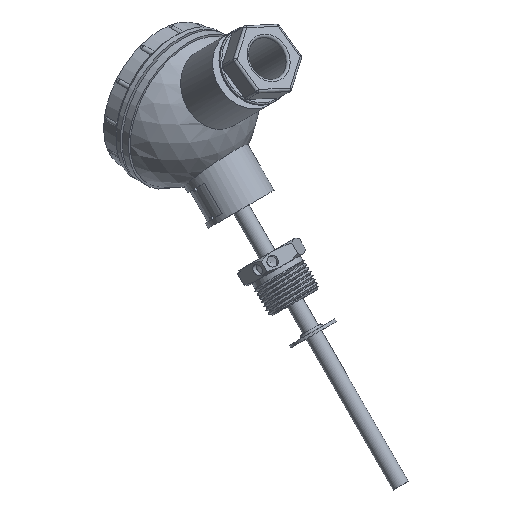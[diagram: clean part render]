
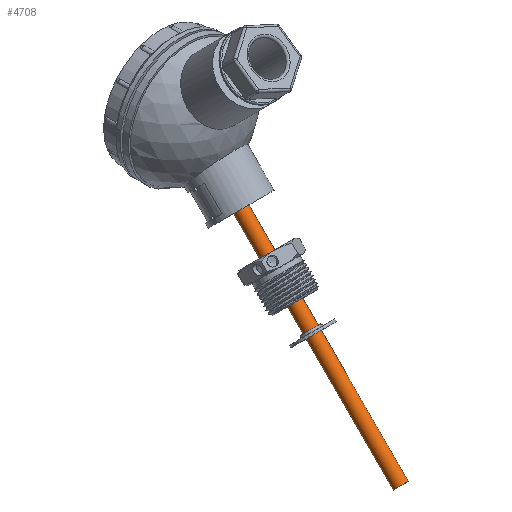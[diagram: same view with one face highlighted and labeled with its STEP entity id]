
A CAD part, isometric view. The second image highlights one B-rep face of the part: STEP entity #4708.
In plain terms, the highlighted cylindrical face has radius 3 mm (diameter 6 mm), a full revolution.
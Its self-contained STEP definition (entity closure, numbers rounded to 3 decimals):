
#4708=ADVANCED_FACE('',(#17986,#17988),#17990,.T.);
#17986=FACE_OUTER_BOUND('',#17987,.T.);
#17987=EDGE_LOOP('',(#20821));
#17988=FACE_OUTER_BOUND('',#17989,.T.);
#17989=EDGE_LOOP('',(#20822));
#17990=CYLINDRICAL_SURFACE('',#17991,3.);
#17991=AXIS2_PLACEMENT_3D('',#17992,#17993,#17994);
#17992=CARTESIAN_POINT('',(0.,0.,9.));
#17993=DIRECTION('',(0.,0.,1.));
#17994=DIRECTION('',(1.,0.,0.));
#20821=ORIENTED_EDGE('',*,*,#21992,.F.);
#20822=ORIENTED_EDGE('',*,*,#21993,.T.);
#21992=EDGE_CURVE('',#23731,#23731,#23732,.T.);
#21993=EDGE_CURVE('',#23733,#23733,#23734,.T.);
#23731=VERTEX_POINT('',#85170);
#23732=CIRCLE('',#85171,3.);
#23733=VERTEX_POINT('',#85175);
#23734=CIRCLE('',#85176,3.);
#85170=CARTESIAN_POINT('',(3.,0.,120.8));
#85171=AXIS2_PLACEMENT_3D('',#85172,#85173,#85174);
#85172=CARTESIAN_POINT('',(0.,0.,120.8));
#85173=DIRECTION('',(0.,0.,1.));
#85174=DIRECTION('',(1.,0.,0.));
#85175=CARTESIAN_POINT('',(3.,0.,9.));
#85176=AXIS2_PLACEMENT_3D('',#85177,#85178,#85179);
#85177=CARTESIAN_POINT('',(0.,0.,9.));
#85178=DIRECTION('',(0.,0.,1.));
#85179=DIRECTION('',(1.,0.,0.));
